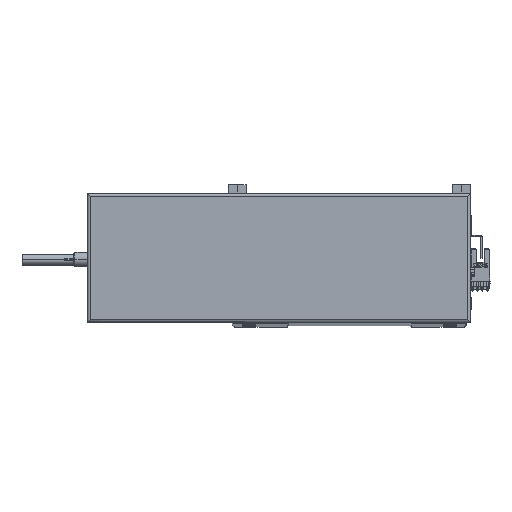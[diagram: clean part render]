
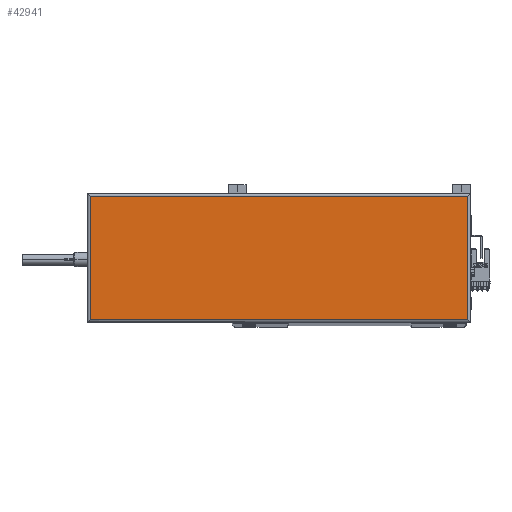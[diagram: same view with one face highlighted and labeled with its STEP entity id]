
A CAD part, top view. The second image highlights one B-rep face of the part: STEP entity #42941.
In plain terms, the highlighted planar face has unit normal (0, 0, 1).
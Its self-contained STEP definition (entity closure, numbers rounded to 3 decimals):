
#1098 = VECTOR ( 'NONE', #39817, 1000. ) ;
#1216 = VERTEX_POINT ( 'NONE', #32861 ) ;
#4602 = CARTESIAN_POINT ( 'NONE',  ( 2., 88., 44.8 ) ) ;
#6039 = PLANE ( 'NONE',  #35728 ) ;
#6193 = CARTESIAN_POINT ( 'NONE',  ( 265., 2., 44.8 ) ) ;
#8309 = LINE ( 'NONE', #10774, #23709 ) ;
#9883 = VECTOR ( 'NONE', #24933, 1000. ) ;
#9888 = ORIENTED_EDGE ( 'NONE', *, *, #40645, .T. ) ;
#10135 = DIRECTION ( 'NONE',  ( 0., 0., 1. ) ) ;
#10774 = CARTESIAN_POINT ( 'NONE',  ( 267., 2., 44.8 ) ) ;
#12006 = LINE ( 'NONE', #35853, #1098 ) ;
#14226 = DIRECTION ( 'NONE',  ( 0., -1., 0. ) ) ;
#17798 = EDGE_CURVE ( 'NONE', #20032, #21864, #8309, .T. ) ;
#17974 = CARTESIAN_POINT ( 'NONE',  ( 2., 2., 44.8 ) ) ;
#18059 = DIRECTION ( 'NONE',  ( 1., 0., 0. ) ) ;
#18361 = ORIENTED_EDGE ( 'NONE', *, *, #32852, .T. ) ;
#20032 = VERTEX_POINT ( 'NONE', #17974 ) ;
#20843 = FACE_OUTER_BOUND ( 'NONE', #21304, .T. ) ;
#21304 = EDGE_LOOP ( 'NONE', ( #18361, #42980, #9888, #35265 ) ) ;
#21864 = VERTEX_POINT ( 'NONE', #6193 ) ;
#22892 = VECTOR ( 'NONE', #14226, 1000. ) ;
#23709 = VECTOR ( 'NONE', #47610, 1000. ) ;
#24398 = CARTESIAN_POINT ( 'NONE',  ( 0., 88., 44.8 ) ) ;
#24933 = DIRECTION ( 'NONE',  ( -1., 0., 0. ) ) ;
#28731 = VERTEX_POINT ( 'NONE', #4602 ) ;
#32852 = EDGE_CURVE ( 'NONE', #21864, #1216, #12006, .T. ) ;
#32861 = CARTESIAN_POINT ( 'NONE',  ( 265., 88., 44.8 ) ) ;
#34490 = CARTESIAN_POINT ( 'NONE',  ( 2., 0., 44.8 ) ) ;
#35265 = ORIENTED_EDGE ( 'NONE', *, *, #17798, .T. ) ;
#35728 = AXIS2_PLACEMENT_3D ( 'NONE', #51085, #10135, #18059 ) ;
#35853 = CARTESIAN_POINT ( 'NONE',  ( 265., 90., 44.8 ) ) ;
#39817 = DIRECTION ( 'NONE',  ( 0., 1., 0. ) ) ;
#40645 = EDGE_CURVE ( 'NONE', #28731, #20032, #46053, .T. ) ;
#42941 = ADVANCED_FACE ( 'NONE', ( #20843 ), #6039, .T. ) ;
#42980 = ORIENTED_EDGE ( 'NONE', *, *, #53064, .T. ) ;
#43247 = LINE ( 'NONE', #24398, #9883 ) ;
#46053 = LINE ( 'NONE', #34490, #22892 ) ;
#47610 = DIRECTION ( 'NONE',  ( 1., 0., 0. ) ) ;
#51085 = CARTESIAN_POINT ( 'NONE',  ( 133.5, 45., 44.8 ) ) ;
#53064 = EDGE_CURVE ( 'NONE', #1216, #28731, #43247, .T. ) ;
